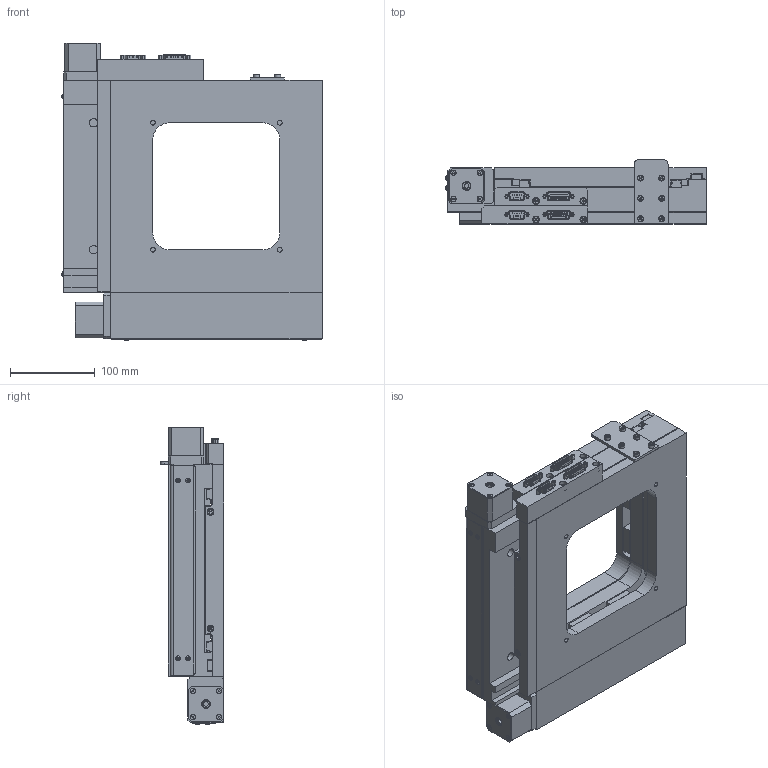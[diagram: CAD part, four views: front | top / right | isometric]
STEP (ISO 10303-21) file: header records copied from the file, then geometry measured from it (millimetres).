
FILE_DESCRIPTION (( 'STEP AP214' ), '1' );
FILE_NAME ('OXY-150-HS-C-EXPORT.STEP', '2025-07-09T17:08:42', ( 'lab' ), ( '' ), 'SwSTEP 2.0', 'SolidWorks 2018', '' );
FILE_SCHEMA (( 'AUTOMOTIVE_DESIGN' ));
Length unit declared in the file: millimetre
Products named in the file (10): 1000006_file_export14; 1000003_file_export5; 1000005_file_export13; 1000002_Stepper Leadscrew; 1000004_file_export12; 1000001_Stepper Leadscrew; 1000013; OXY-150-HS-C-EXPORT; 1000009_file_export28; 1000010_file_export15
Assembly tree (24 placements, depth 2):
  OXY-150-HS-C-EXPORT
    1000001_Stepper Leadscrew
    1000002_Stepper Leadscrew
    1000003_file_export5
    1000004_file_export12  x8
    1000005_file_export13  x2
    1000006_file_export14  x2
    1000009_file_export28  x6
    1000010_file_export15
    1000013  x2
Bounding box: 307.41 x 75.5 x 351.21 mm (x, y, z)
Volume: 3934031.3 mm3; surface area: 723897.2 mm2
Topology: 137 solids, 137 shells, 2774 faces, 6401 edges, 3996 vertices
Faces by surface type: plane 1626, cylinder 596, bspline 340, cone 196, sphere 16
Entity records: 64871 total; most frequent: CARTESIAN_POINT 15454, DIRECTION 8904, ORIENTED_EDGE 8836, EDGE_CURVE 4418, AXIS2_PLACEMENT_3D 2991, LINE 2922, VECTOR 2922, VERTEX_POINT 2813
